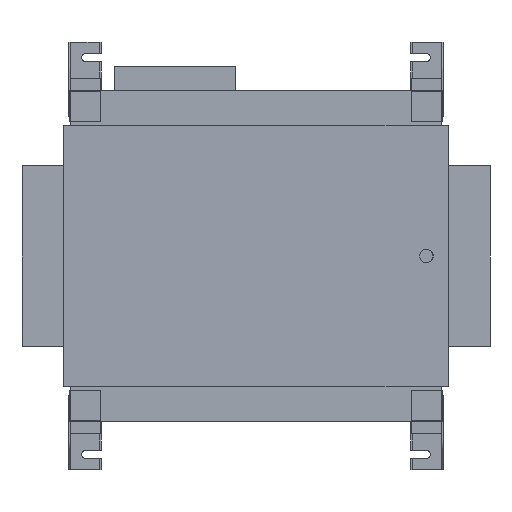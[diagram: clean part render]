
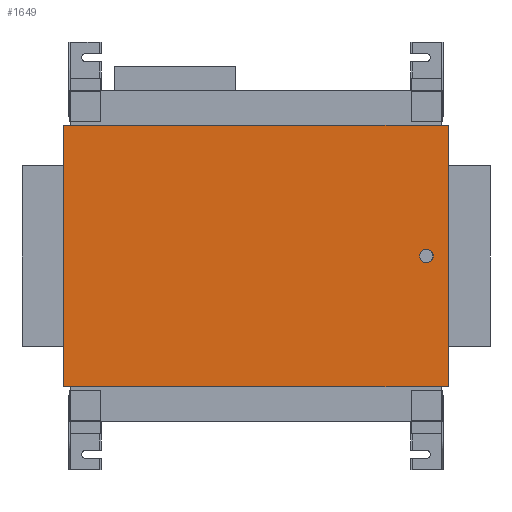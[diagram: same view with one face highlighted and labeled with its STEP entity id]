
A CAD part, front view. The second image highlights one B-rep face of the part: STEP entity #1649.
In plain terms, the highlighted planar face has unit normal (-0.016, -1, 0).
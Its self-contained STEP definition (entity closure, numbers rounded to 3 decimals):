
#606 = CIRCLE ( 'NONE', #3891, 10.85 ) ;
#970 = VERTEX_POINT ( 'NONE', #2482 ) ;
#1095 = CARTESIAN_POINT ( 'NONE',  ( -317.19, 50.8, 216. ) ) ;
#1282 = LINE ( 'NONE', #5832, #6443 ) ;
#1320 = CARTESIAN_POINT ( 'NONE',  ( 281.341, 41.357, 0. ) ) ;
#1637 = ORIENTED_EDGE ( 'NONE', *, *, #2321, .T. ) ;
#1649 = ADVANCED_FACE ( 'NONE', ( #3334, #3305 ), #5912, .F. ) ;
#1852 = DIRECTION ( 'NONE',  ( -0.016, -1., 0. ) ) ;
#1856 = LINE ( 'NONE', #3402, #3103 ) ;
#1885 = CARTESIAN_POINT ( 'NONE',  ( -317.19, 50.8, -216. ) ) ;
#1911 = CARTESIAN_POINT ( 'NONE',  ( 292.19, 41.186, 0. ) ) ;
#2265 = DIRECTION ( 'NONE',  ( -1., 0.016, 0. ) ) ;
#2321 = EDGE_CURVE ( 'NONE', #4096, #2644, #6271, .T. ) ;
#2422 = LINE ( 'NONE', #1885, #3916 ) ;
#2431 = CARTESIAN_POINT ( 'NONE',  ( -317.19, 50.8, -216. ) ) ;
#2482 = CARTESIAN_POINT ( 'NONE',  ( 270.492, 41.528, 0. ) ) ;
#2610 = DIRECTION ( 'NONE',  ( -1., 0.016, 0. ) ) ;
#2641 = CARTESIAN_POINT ( 'NONE',  ( -317.19, 50.8, 216. ) ) ;
#2644 = VERTEX_POINT ( 'NONE', #1095 ) ;
#2898 = CARTESIAN_POINT ( 'NONE',  ( -317.19, 50.8, 850.493 ) ) ;
#2926 = DIRECTION ( 'NONE',  ( -1., 0.016, 0. ) ) ;
#3103 = VECTOR ( 'NONE', #4835, 1000. ) ;
#3183 = VECTOR ( 'NONE', #5266, 1000. ) ;
#3305 = FACE_OUTER_BOUND ( 'NONE', #6304, .T. ) ;
#3334 = FACE_BOUND ( 'NONE', #3530, .T. ) ;
#3344 = DIRECTION ( 'NONE',  ( 0., 0., -1. ) ) ;
#3359 = CARTESIAN_POINT ( 'NONE',  ( 316.81, 40.798, -216. ) ) ;
#3402 = CARTESIAN_POINT ( 'NONE',  ( 316.81, 40.798, 850.493 ) ) ;
#3452 = VERTEX_POINT ( 'NONE', #1911 ) ;
#3530 = EDGE_LOOP ( 'NONE', ( #3605, #5047 ) ) ;
#3565 = EDGE_CURVE ( 'NONE', #3452, #970, #6420, .T. ) ;
#3602 = CARTESIAN_POINT ( 'NONE',  ( 281.341, 41.357, 0. ) ) ;
#3605 = ORIENTED_EDGE ( 'NONE', *, *, #4105, .F. ) ;
#3865 = CARTESIAN_POINT ( 'NONE',  ( 316.81, 40.798, 216. ) ) ;
#3891 = AXIS2_PLACEMENT_3D ( 'NONE', #1320, #1852, #2265 ) ;
#3916 = VECTOR ( 'NONE', #5910, 1000. ) ;
#4096 = VERTEX_POINT ( 'NONE', #3865 ) ;
#4105 = EDGE_CURVE ( 'NONE', #970, #3452, #606, .T. ) ;
#4116 = VERTEX_POINT ( 'NONE', #3359 ) ;
#4328 = ORIENTED_EDGE ( 'NONE', *, *, #6398, .F. ) ;
#4835 = DIRECTION ( 'NONE',  ( 0., 0., -1. ) ) ;
#5047 = ORIENTED_EDGE ( 'NONE', *, *, #3565, .F. ) ;
#5266 = DIRECTION ( 'NONE',  ( -1., 0.016, 0. ) ) ;
#5550 = DIRECTION ( 'NONE',  ( -0.016, -1., 0. ) ) ;
#5576 = EDGE_CURVE ( 'NONE', #6411, #4116, #2422, .T. ) ;
#5581 = ORIENTED_EDGE ( 'NONE', *, *, #5988, .T. ) ;
#5785 = ORIENTED_EDGE ( 'NONE', *, *, #5576, .T. ) ;
#5832 = CARTESIAN_POINT ( 'NONE',  ( -317.19, 50.8, 850.493 ) ) ;
#5909 = AXIS2_PLACEMENT_3D ( 'NONE', #3602, #5550, #2610 ) ;
#5910 = DIRECTION ( 'NONE',  ( 1., -0.016, 0. ) ) ;
#5912 = PLANE ( 'NONE',  #6444 ) ;
#5988 = EDGE_CURVE ( 'NONE', #2644, #6411, #1282, .T. ) ;
#6271 = LINE ( 'NONE', #2641, #3183 ) ;
#6304 = EDGE_LOOP ( 'NONE', ( #4328, #1637, #5581, #5785 ) ) ;
#6367 = DIRECTION ( 'NONE',  ( 0.016, 1., 0. ) ) ;
#6398 = EDGE_CURVE ( 'NONE', #4096, #4116, #1856, .T. ) ;
#6411 = VERTEX_POINT ( 'NONE', #2431 ) ;
#6420 = CIRCLE ( 'NONE', #5909, 10.85 ) ;
#6443 = VECTOR ( 'NONE', #3344, 1000. ) ;
#6444 = AXIS2_PLACEMENT_3D ( 'NONE', #2898, #6367, #2926 ) ;
